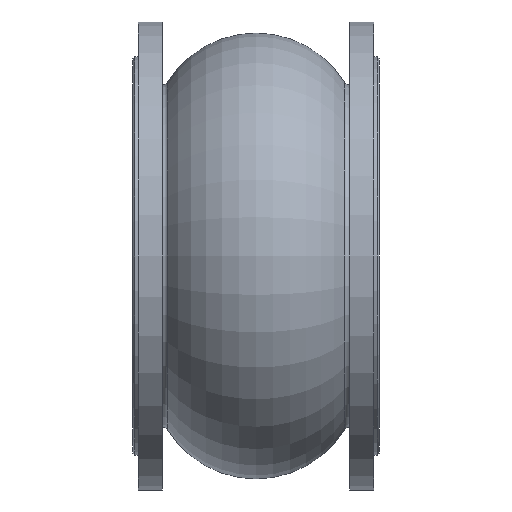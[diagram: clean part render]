
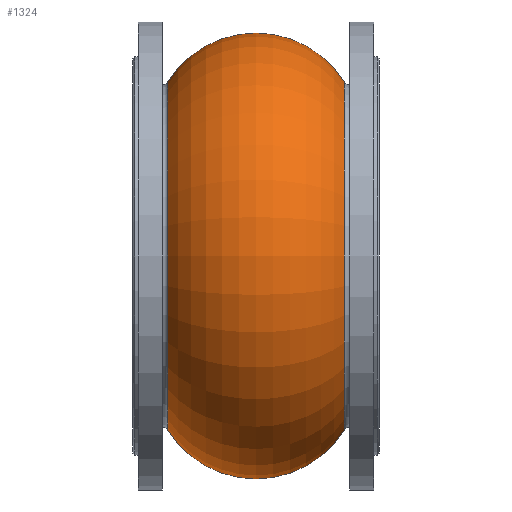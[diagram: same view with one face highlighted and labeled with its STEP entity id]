
A CAD part, front view. The second image highlights one B-rep face of the part: STEP entity #1324.
In plain terms, the highlighted toroidal (fillet/blend) face has major radius 128.497 mm and minor radius 112.006 mm.
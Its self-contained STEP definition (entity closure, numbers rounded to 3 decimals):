
#698 = EDGE_LOOP ( 'NONE', ( #1333, #1338, #1343, #2167 ) ) ;
#1041 = VERTEX_POINT ( 'NONE', #2929 ) ;
#1042 = VERTEX_POINT ( 'NONE', #2925 ) ;
#1099 = EDGE_CURVE ( 'NONE', #1041, #1042, #3147, .T. ) ;
#1107 = EDGE_CURVE ( 'NONE', #1176, #1041, #3124, .T. ) ;
#1125 = EDGE_CURVE ( 'NONE', #1134, #1042, #3006, .T. ) ;
#1134 = VERTEX_POINT ( 'NONE', #3061 ) ;
#1141 = EDGE_CURVE ( 'NONE', #1176, #1134, #2991, .T. ) ;
#1176 = VERTEX_POINT ( 'NONE', #3232 ) ;
#1324 = ADVANCED_FACE ( 'NONE', ( #3551 ), #3545, .T. ) ;
#1333 = ORIENTED_EDGE ( 'NONE', *, *, #1107, .F. ) ;
#1338 = ORIENTED_EDGE ( 'NONE', *, *, #1141, .T. ) ;
#1343 = ORIENTED_EDGE ( 'NONE', *, *, #1125, .T. ) ;
#2167 = ORIENTED_EDGE ( 'NONE', *, *, #1099, .F. ) ;
#2925 = CARTESIAN_POINT ( 'NONE',  ( -95.002, 0., 187.826 ) ) ;
#2929 = CARTESIAN_POINT ( 'NONE',  ( -95.002, 0., -187.826 ) ) ;
#2987 = DIRECTION ( 'NONE',  ( 0., 0., 1. ) ) ;
#2988 = DIRECTION ( 'NONE',  ( -1., 0., 0. ) ) ;
#2989 = CARTESIAN_POINT ( 'NONE',  ( 95.002, 0., 0. ) ) ;
#2990 = AXIS2_PLACEMENT_3D ( 'NONE', #2989, #2988, #2987 ) ;
#2991 = CIRCLE ( 'NONE', #2990, 187.826 ) ;
#3002 = DIRECTION ( 'NONE',  ( 0., 0., -1. ) ) ;
#3003 = DIRECTION ( 'NONE',  ( 0., -1., 0. ) ) ;
#3004 = CARTESIAN_POINT ( 'NONE',  ( 0., 0., 128.497 ) ) ;
#3005 = AXIS2_PLACEMENT_3D ( 'NONE', #3004, #3003, #3002 ) ;
#3006 = CIRCLE ( 'NONE', #3005, 112.006 ) ;
#3061 = CARTESIAN_POINT ( 'NONE',  ( 95.002, 0., 187.826 ) ) ;
#3102 = DIRECTION ( 'NONE',  ( 0., 0., 1. ) ) ;
#3103 = DIRECTION ( 'NONE',  ( 0., 1., 0. ) ) ;
#3104 = CARTESIAN_POINT ( 'NONE',  ( 0., 0., -128.497 ) ) ;
#3124 = CIRCLE ( 'NONE', #3140, 112.006 ) ;
#3136 = DIRECTION ( 'NONE',  ( 0., 0., 1. ) ) ;
#3137 = DIRECTION ( 'NONE',  ( -1., 0., 0. ) ) ;
#3138 = CARTESIAN_POINT ( 'NONE',  ( -95.002, 0., 0. ) ) ;
#3140 = AXIS2_PLACEMENT_3D ( 'NONE', #3104, #3103, #3102 ) ;
#3146 = AXIS2_PLACEMENT_3D ( 'NONE', #3138, #3137, #3136 ) ;
#3147 = CIRCLE ( 'NONE', #3146, 187.826 ) ;
#3232 = CARTESIAN_POINT ( 'NONE',  ( 95.002, 0., -187.826 ) ) ;
#3528 = DIRECTION ( 'NONE',  ( 0., 0., 1. ) ) ;
#3529 = DIRECTION ( 'NONE',  ( -1., 0., 0. ) ) ;
#3530 = CARTESIAN_POINT ( 'NONE',  ( 0., 0., 0. ) ) ;
#3543 = AXIS2_PLACEMENT_3D ( 'NONE', #3530, #3529, #3528 ) ;
#3545 = TOROIDAL_SURFACE ( 'NONE', #3543, 128.497, 112.006 ) ;
#3551 = FACE_OUTER_BOUND ( 'NONE', #698, .T. ) ;
